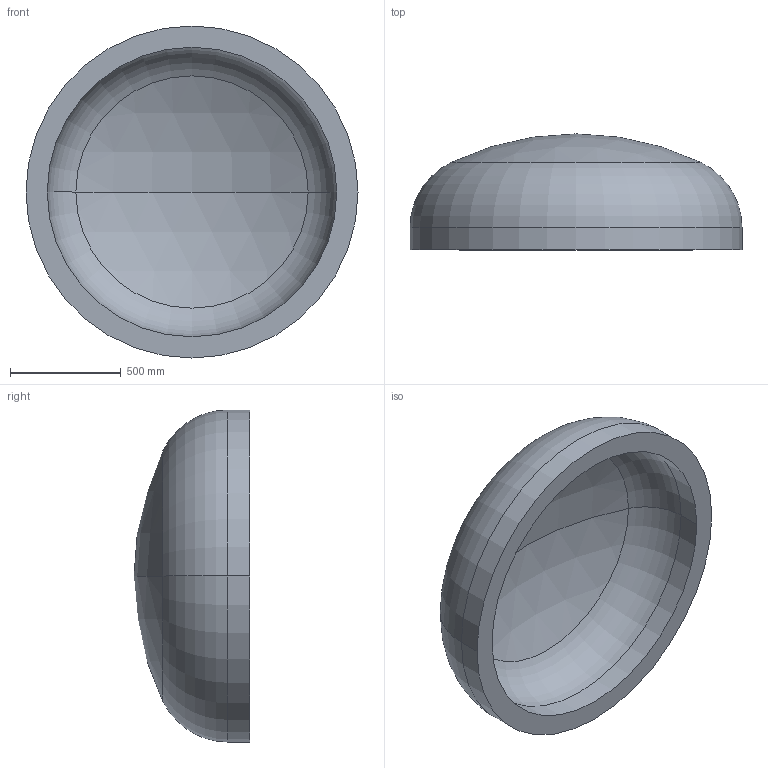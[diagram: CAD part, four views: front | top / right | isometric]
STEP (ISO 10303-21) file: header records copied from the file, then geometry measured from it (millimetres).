
FILE_DESCRIPTION (( 'STEP AP203' ), '1' );
FILE_NAME ('DIN 28013 Korbbogenform_-_Boden DIN 28013 - 1500 x 100 - I - s=96.step', '2016-07-01T10:57:20', ( '' ), ( '' ), 'SwSTEP 2.0', 'SolidWorks 2013', '' );
FILE_SCHEMA (( 'CONFIG_CONTROL_DESIGN' ));
Length unit declared in the file: millimetre
Products named in the file (1): DIN 28013 Korbbogenform_-_Boden DIN 28013 - 1500 x 100 - I - s=96
Bounding box: 1500 x 523.58 x 1500 mm (x, y, z)
Volume: 258755678.3 mm3; surface area: 5833480.4 mm2
Topology: 1 solids, 1 shells, 13 faces, 24 edges, 14 vertices
Faces by surface type: torus 4, cylinder 4, sphere 4, plane 1
Entity records: 407 total; most frequent: DIRECTION 72, CARTESIAN_POINT 52, ORIENTED_EDGE 48, AXIS2_PLACEMENT_3D 34, EDGE_CURVE 24, CIRCLE 20, EDGE_LOOP 14, VERTEX_POINT 14
